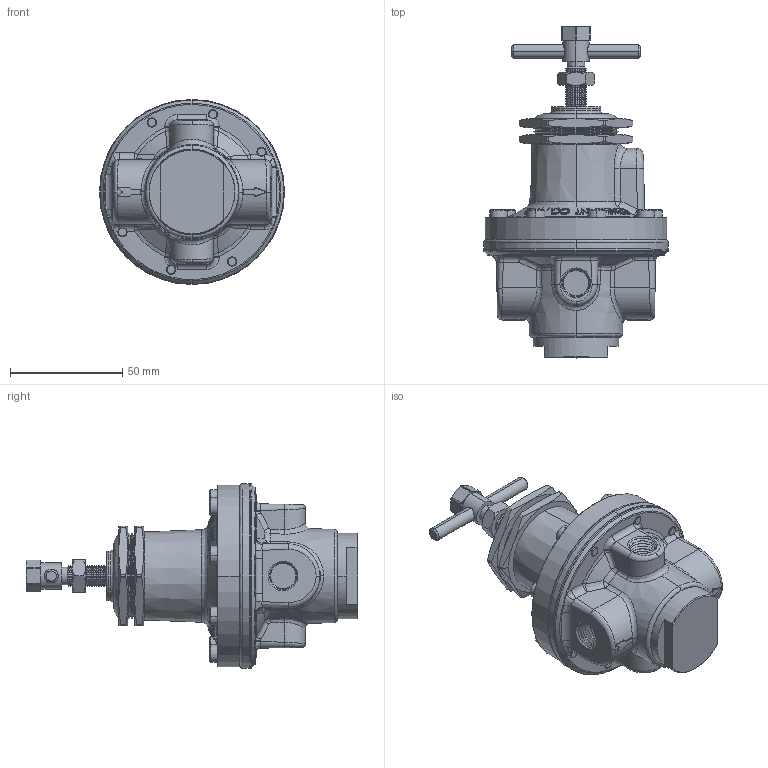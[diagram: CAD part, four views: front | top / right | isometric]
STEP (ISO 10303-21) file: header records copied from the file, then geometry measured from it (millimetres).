
FILE_DESCRIPTION (( 'STEP AP203' ), '1' );
FILE_NAME ('4GDR-2BSPT-P.STEP', '2013-03-14T15:13:12', ( '' ), ( '' ), 'SwSTEP 2.0', 'SolidWorks 2011', '' );
FILE_SCHEMA (( 'CONFIG_CONTROL_DESIGN' ));
Length unit declared in the file: inch
Products named in the file (2): 4GDR-2BSPT-P; Part12^4GDR-250B-P_CM
Assembly tree (1 placements, depth 2):
  4GDR-2BSPT-P
    Part12^4GDR-250B-P_CM
Bounding box: 82.3 x 147.64 x 82.3 mm (x, y, z)
Volume: 251209.9 mm3; surface area: 38264.1 mm2
Topology: 1 solids, 6 shells, 1288 faces, 3201 edges, 1967 vertices
Faces by surface type: cone 460, plane 355, bspline 268, cylinder 205
Entity records: 50722 total; most frequent: CARTESIAN_POINT 21992, ORIENTED_EDGE 6370, DIRECTION 5449, EDGE_CURVE 3185, AXIS2_PLACEMENT_3D 2163, VERTEX_POINT 1967, EDGE_LOOP 1356, FACE_OUTER_BOUND 1288
